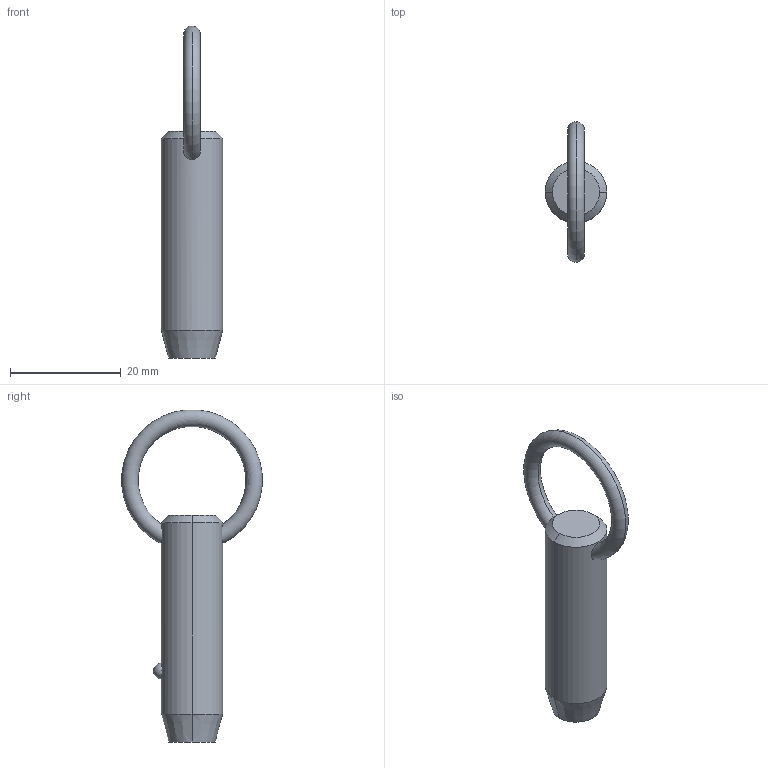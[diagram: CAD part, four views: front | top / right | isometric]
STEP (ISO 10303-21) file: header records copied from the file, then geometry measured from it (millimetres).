
FILE_DESCRIPTION (( 'STEP AP203' ), '1' );
FILE_NAME ('P1250.050-080.step', '2019-07-29T20:28:25', ( '' ), ( '' ), 'SwSTEP 2.0', 'SolidWorks 2017', '' );
FILE_SCHEMA (( 'CONFIG_CONTROL_DESIGN' ));
Length unit declared in the file: millimetre
Products named in the file (1): P1250.050-080
Bounding box: 11.1 x 25.32 x 59.85 mm (x, y, z)
Volume: 4240.6 mm3; surface area: 2078.9 mm2
Topology: 1 solids, 1 shells, 12 faces, 28 edges, 17 vertices
Faces by surface type: cone 4, torus 2, sphere 2, cylinder 2, plane 2
Entity records: 523 total; most frequent: CARTESIAN_POINT 190, DIRECTION 56, ORIENTED_EDGE 48, AXIS2_PLACEMENT_3D 25, EDGE_CURVE 24, EDGE_LOOP 15, VERTEX_POINT 15, FACE_OUTER_BOUND 12
